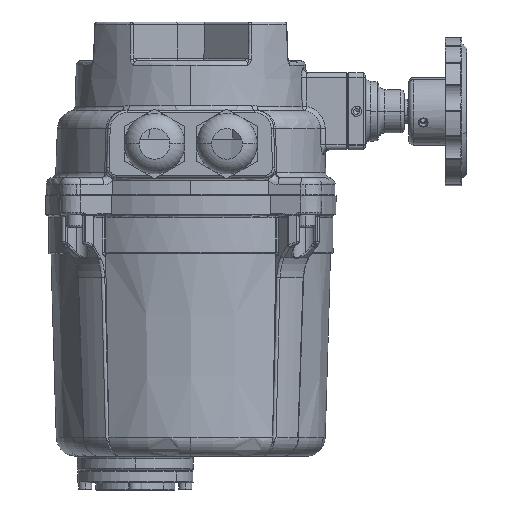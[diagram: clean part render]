
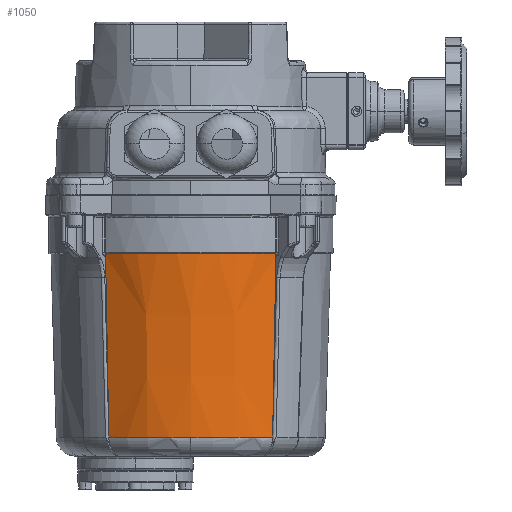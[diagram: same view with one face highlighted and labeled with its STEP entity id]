
A CAD part, left-side view. The second image highlights one B-rep face of the part: STEP entity #1050.
In plain terms, the highlighted conical face has half-angle 1.7 degrees and reference radius 58 mm.
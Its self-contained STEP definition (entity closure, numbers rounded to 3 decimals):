
#1050 = ADVANCED_FACE ( 'NONE', ( #74928 ), #11019, .T. ) ;
#1613 = CARTESIAN_POINT ( 'NONE',  ( 44.239, -33.946, 99.42 ) ) ;
#4753 = CARTESIAN_POINT ( 'NONE',  ( 46.127, 35.142, 24.385 ) ) ;
#5158 = CARTESIAN_POINT ( 'NONE',  ( 46.081, 35.197, 24.493 ) ) ;
#5558 = CARTESIAN_POINT ( 'NONE',  ( 46.244, 34.998, 24.2 ) ) ;
#6003 = CARTESIAN_POINT ( 'NONE',  ( 56.046, 15.244, 24. ) ) ;
#6012 = LINE ( 'NONE', #69511, #112175 ) ;
#6026 = CARTESIAN_POINT ( 'NONE',  ( 46.616, -34.51, 24. ) ) ;
#6793 = CARTESIAN_POINT ( 'NONE',  ( 52.917, -23.942, 24. ) ) ;
#7194 = CARTESIAN_POINT ( 'NONE',  ( 57.754, -6.16, 24. ) ) ;
#7674 = CARTESIAN_POINT ( 'NONE',  ( 46.243, -34.998, 24.201 ) ) ;
#8811 = CARTESIAN_POINT ( 'NONE',  ( 44.219, 33.931, 100.237 ) ) ;
#11019 = CONICAL_SURFACE ( 'NONE', #107979, 58., 0.03 ) ;
#12040 = VERTEX_POINT ( 'NONE', #81777 ) ;
#12214 = EDGE_CURVE ( 'NONE', #67071, #112744, #25723, .T. ) ;
#14053 = B_SPLINE_CURVE_WITH_KNOTS ( 'NONE', 3,
 ( #60491, #69811, #60877, #98635, #5558, #4753, #5158, #108352, #52698, #117671 ),
 .UNSPECIFIED., .F., .F.,
 ( 4, 2, 2, 2, 4 ),
 ( 0., 0.25, 0.5, 0.75, 1. ),
 .UNSPECIFIED. ) ;
#17016 = CARTESIAN_POINT ( 'NONE',  ( 46.538, -34.615, 24. ) ) ;
#18134 = CARTESIAN_POINT ( 'NONE',  ( 44.232, 33.941, 99.692 ) ) ;
#19538 = CARTESIAN_POINT ( 'NONE',  ( 44.219, -33.931, 100.237 ) ) ;
#21699 = EDGE_LOOP ( 'NONE', ( #43544, #31043, #55871, #100001, #100566, #47585, #55583, #112437, #53155 ) ) ;
#21907 = EDGE_CURVE ( 'NONE', #78413, #90970, #94123, .T. ) ;
#23936 = CARTESIAN_POINT ( 'NONE',  ( 45.991, 35.29, 25. ) ) ;
#24680 = CARTESIAN_POINT ( 'NONE',  ( 58., 3.08, 24. ) ) ;
#25083 = CARTESIAN_POINT ( 'NONE',  ( 56.777, 12.242, 24. ) ) ;
#25258 = CARTESIAN_POINT ( 'NONE',  ( 0., 0., 100.237 ) ) ;
#25486 = CARTESIAN_POINT ( 'NONE',  ( 54.116, -21.094, 24. ) ) ;
#25723 = LINE ( 'NONE', #23936, #99910 ) ;
#25890 = CARTESIAN_POINT ( 'NONE',  ( 54.116, 21.094, 24. ) ) ;
#26302 = CARTESIAN_POINT ( 'NONE',  ( 58., -3.08, 24. ) ) ;
#27488 = VERTEX_POINT ( 'NONE', #70734 ) ;
#27594 = CARTESIAN_POINT ( 'NONE',  ( 45.991, -35.29, 25. ) ) ;
#31043 = ORIENTED_EDGE ( 'NONE', *, *, #107284, .T. ) ;
#31284 = DIRECTION ( 'NONE',  ( -0.024, 0.018, 1. ) ) ;
#35703 = CARTESIAN_POINT ( 'NONE',  ( 46.31, -34.914, 24.129 ) ) ;
#36108 = CARTESIAN_POINT ( 'NONE',  ( 45.994, -35.292, 24.867 ) ) ;
#37113 = VERTEX_POINT ( 'NONE', #119436 ) ;
#37406 = CARTESIAN_POINT ( 'NONE',  ( 44.226, -33.936, 99.965 ) ) ;
#42673 = CARTESIAN_POINT ( 'NONE',  ( 0., 0., 100.237 ) ) ;
#43132 = CARTESIAN_POINT ( 'NONE',  ( 46.616, 34.51, 24. ) ) ;
#43544 = ORIENTED_EDGE ( 'NONE', *, *, #21907, .T. ) ;
#44622 = CARTESIAN_POINT ( 'NONE',  ( 46.616, 34.51, 24. ) ) ;
#44655 = DIRECTION ( 'NONE',  ( 0., 0., -1. ) ) ;
#45018 = CARTESIAN_POINT ( 'NONE',  ( 48.449, 32.034, 24. ) ) ;
#45487 = CARTESIAN_POINT ( 'NONE',  ( 46.461, -34.717, 24.026 ) ) ;
#46586 = EDGE_CURVE ( 'NONE', #12040, #66544, #6012, .T. ) ;
#46790 = CARTESIAN_POINT ( 'NONE',  ( 44.232, -33.941, 99.692 ) ) ;
#47585 = ORIENTED_EDGE ( 'NONE', *, *, #105526, .T. ) ;
#52698 = CARTESIAN_POINT ( 'NONE',  ( 45.994, 35.292, 24.868 ) ) ;
#52785 = AXIS2_PLACEMENT_3D ( 'NONE', #25258, #72010, #91537 ) ;
#53155 = ORIENTED_EDGE ( 'NONE', *, *, #116198, .T. ) ;
#54818 = DIRECTION ( 'NONE',  ( -1., 0., 0. ) ) ;
#55434 = EDGE_CURVE ( 'NONE', #27488, #66544, #91139, .T. ) ;
#55583 = ORIENTED_EDGE ( 'NONE', *, *, #55434, .T. ) ;
#55871 = ORIENTED_EDGE ( 'NONE', *, *, #12214, .T. ) ;
#55901 = CIRCLE ( 'NONE', #88247, 55.737 ) ;
#60491 = CARTESIAN_POINT ( 'NONE',  ( 46.616, 34.51, 24. ) ) ;
#60877 = CARTESIAN_POINT ( 'NONE',  ( 46.461, 34.718, 24.025 ) ) ;
#62910 = CARTESIAN_POINT ( 'NONE',  ( 50.084, -29.412, 24. ) ) ;
#63303 = CARTESIAN_POINT ( 'NONE',  ( 44.239, 33.946, 99.42 ) ) ;
#64189 = CARTESIAN_POINT ( 'NONE',  ( 46.08, -35.199, 24.495 ) ) ;
#66544 = VERTEX_POINT ( 'NONE', #85765 ) ;
#67071 = VERTEX_POINT ( 'NONE', #71339 ) ;
#69511 = CARTESIAN_POINT ( 'NONE',  ( 45.991, -35.29, 25. ) ) ;
#69811 = CARTESIAN_POINT ( 'NONE',  ( 46.537, 34.616, 24. ) ) ;
#70734 = CARTESIAN_POINT ( 'NONE',  ( 44.219, -33.931, 100.237 ) ) ;
#71339 = CARTESIAN_POINT ( 'NONE',  ( 45.991, 35.29, 25. ) ) ;
#71505 = DIRECTION ( 'NONE',  ( -1., 0., 0. ) ) ;
#71742 = B_SPLINE_CURVE_WITH_KNOTS ( 'NONE', 3,
 ( #27594, #36108, #93034, #64189, #74312, #7674, #35703, #45487, #17016, #72719 ),
 .UNSPECIFIED., .F., .F.,
 ( 4, 2, 2, 2, 4 ),
 ( 0., 0.25, 0.5, 0.75, 1. ),
 .UNSPECIFIED. ) ;
#72010 = DIRECTION ( 'NONE',  ( 0., 0., -1. ) ) ;
#72659 = CARTESIAN_POINT ( 'NONE',  ( 56.046, -15.244, 24. ) ) ;
#72719 = CARTESIAN_POINT ( 'NONE',  ( 46.616, -34.51, 24. ) ) ;
#74312 = CARTESIAN_POINT ( 'NONE',  ( 46.127, -35.142, 24.386 ) ) ;
#74928 = FACE_OUTER_BOUND ( 'NONE', #21699, .T. ) ;
#78413 = VERTEX_POINT ( 'NONE', #6026 ) ;
#80382 = CARTESIAN_POINT ( 'NONE',  ( 56.777, -12.242, 24. ) ) ;
#81352 = EDGE_CURVE ( 'NONE', #101743, #112744, #90069, .T. ) ;
#81585 = CARTESIAN_POINT ( 'NONE',  ( 57.754, 6.16, 24. ) ) ;
#81777 = CARTESIAN_POINT ( 'NONE',  ( 45.991, -35.29, 25. ) ) ;
#85765 = CARTESIAN_POINT ( 'NONE',  ( 44.239, -33.946, 99.42 ) ) ;
#88247 = AXIS2_PLACEMENT_3D ( 'NONE', #42673, #90615, #71505 ) ;
#90069 = B_SPLINE_CURVE_WITH_KNOTS ( 'NONE', 3,
 ( #8811, #118916, #18134, #63303 ),
 .UNSPECIFIED., .F., .F.,
 ( 4, 4 ),
 ( 0., 1. ),
 .UNSPECIFIED. ) ;
#90615 = DIRECTION ( 'NONE',  ( 0., 0., -1. ) ) ;
#90970 = VERTEX_POINT ( 'NONE', #43132 ) ;
#91139 = B_SPLINE_CURVE_WITH_KNOTS ( 'NONE', 3,
 ( #19538, #37406, #46790, #1613 ),
 .UNSPECIFIED., .F., .F.,
 ( 4, 4 ),
 ( 0., 1. ),
 .UNSPECIFIED. ) ;
#91300 = CARTESIAN_POINT ( 'NONE',  ( 44.219, 33.931, 100.237 ) ) ;
#91366 = CARTESIAN_POINT ( 'NONE',  ( 52.917, 23.942, 24. ) ) ;
#91537 = DIRECTION ( 'NONE',  ( -1., 0., 0. ) ) ;
#91798 = CARTESIAN_POINT ( 'NONE',  ( 0., 0., 24. ) ) ;
#93034 = CARTESIAN_POINT ( 'NONE',  ( 46.013, -35.275, 24.74 ) ) ;
#94123 = B_SPLINE_CURVE_WITH_KNOTS ( 'NONE', 3,
 ( #108405, #99068, #62910, #6793, #25486, #72659, #80382, #7194, #26302, #24680, #81585, #25083, #6003, #25890, #91366, #99873, #45018, #44622 ),
 .UNSPECIFIED., .F., .F.,
 ( 4, 2, 2, 2, 2, 2, 2, 2, 4 ),
 ( 0., 0.125, 0.25, 0.375, 0.5, 0.625, 0.75, 0.875, 1. ),
 .UNSPECIFIED. ) ;
#94278 = CIRCLE ( 'NONE', #52785, 55.737 ) ;
#98635 = CARTESIAN_POINT ( 'NONE',  ( 46.311, 34.912, 24.127 ) ) ;
#99068 = CARTESIAN_POINT ( 'NONE',  ( 48.449, -32.034, 24. ) ) ;
#99873 = CARTESIAN_POINT ( 'NONE',  ( 50.084, 29.412, 24. ) ) ;
#99910 = VECTOR ( 'NONE', #99929, 1000. ) ;
#99929 = DIRECTION ( 'NONE',  ( -0.024, -0.018, 1. ) ) ;
#100001 = ORIENTED_EDGE ( 'NONE', *, *, #81352, .F. ) ;
#100566 = ORIENTED_EDGE ( 'NONE', *, *, #111399, .T. ) ;
#101743 = VERTEX_POINT ( 'NONE', #91300 ) ;
#105526 = EDGE_CURVE ( 'NONE', #37113, #27488, #94278, .T. ) ;
#107284 = EDGE_CURVE ( 'NONE', #90970, #67071, #14053, .T. ) ;
#107979 = AXIS2_PLACEMENT_3D ( 'NONE', #91798, #44655, #54818 ) ;
#108352 = CARTESIAN_POINT ( 'NONE',  ( 46.013, 35.274, 24.74 ) ) ;
#108405 = CARTESIAN_POINT ( 'NONE',  ( 46.616, -34.51, 24. ) ) ;
#109206 = CARTESIAN_POINT ( 'NONE',  ( 44.239, 33.946, 99.42 ) ) ;
#111399 = EDGE_CURVE ( 'NONE', #101743, #37113, #55901, .T. ) ;
#112175 = VECTOR ( 'NONE', #31284, 1000. ) ;
#112437 = ORIENTED_EDGE ( 'NONE', *, *, #46586, .F. ) ;
#112744 = VERTEX_POINT ( 'NONE', #109206 ) ;
#116198 = EDGE_CURVE ( 'NONE', #12040, #78413, #71742, .T. ) ;
#117671 = CARTESIAN_POINT ( 'NONE',  ( 45.991, 35.29, 25. ) ) ;
#118916 = CARTESIAN_POINT ( 'NONE',  ( 44.226, 33.936, 99.965 ) ) ;
#119436 = CARTESIAN_POINT ( 'NONE',  ( 55.737, 0., 100.237 ) ) ;
